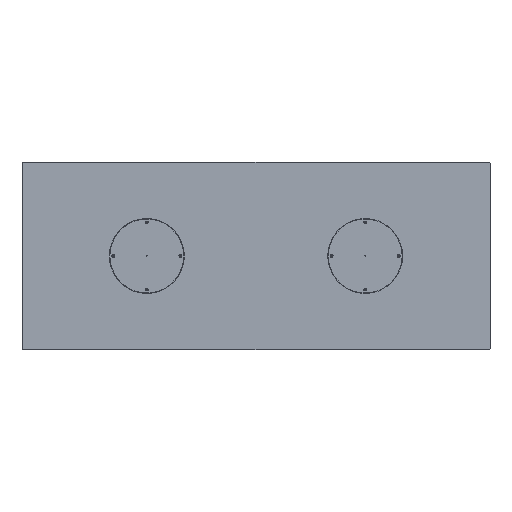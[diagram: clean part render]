
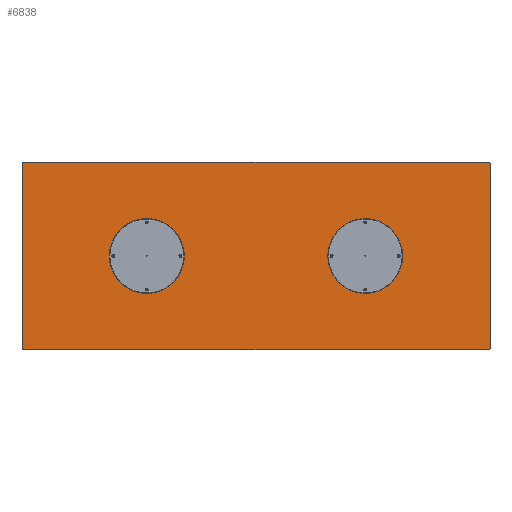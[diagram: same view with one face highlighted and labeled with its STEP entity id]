
A CAD part, front view. The second image highlights one B-rep face of the part: STEP entity #6838.
In plain terms, the highlighted planar face has unit normal (0, -1, 0).
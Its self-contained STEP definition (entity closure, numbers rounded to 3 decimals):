
#148 = FACE_OUTER_BOUND ( 'NONE', #11489, .T. ) ;
#529 = DIRECTION ( 'NONE',  ( 0., 0., 1. ) ) ;
#544 = CARTESIAN_POINT ( 'NONE',  ( -1495., 0., -600. ) ) ;
#670 = CARTESIAN_POINT ( 'NONE',  ( 1495., 0., 595. ) ) ;
#800 = CARTESIAN_POINT ( 'NONE',  ( 1495., 0., -600. ) ) ;
#862 = CARTESIAN_POINT ( 'NONE',  ( -1500., 0., 595. ) ) ;
#973 = CARTESIAN_POINT ( 'NONE',  ( -1495., 0., 600. ) ) ;
#1077 = ORIENTED_EDGE ( 'NONE', *, *, #10529, .F. ) ;
#1283 = DIRECTION ( 'NONE',  ( 0., 0., 1. ) ) ;
#1466 = EDGE_CURVE ( 'NONE', #4580, #11518, #3992, .T. ) ;
#1703 = VERTEX_POINT ( 'NONE', #973 ) ;
#1739 = VERTEX_POINT ( 'NONE', #544 ) ;
#1893 = ORIENTED_EDGE ( 'NONE', *, *, #8544, .F. ) ;
#2830 = VECTOR ( 'NONE', #3323, 1000. ) ;
#3110 = EDGE_CURVE ( 'NONE', #4865, #12745, #6759, .T. ) ;
#3323 = DIRECTION ( 'NONE',  ( -1., 0., 0. ) ) ;
#3394 = CARTESIAN_POINT ( 'NONE',  ( -1495., 0., 595. ) ) ;
#3558 = LINE ( 'NONE', #6520, #7496 ) ;
#3861 = AXIS2_PLACEMENT_3D ( 'NONE', #670, #6882, #9888 ) ;
#3931 = CARTESIAN_POINT ( 'NONE',  ( -1500., 0., -600. ) ) ;
#3992 = LINE ( 'NONE', #3931, #12468 ) ;
#4061 = CIRCLE ( 'NONE', #3861, 5. ) ;
#4153 = ORIENTED_EDGE ( 'NONE', *, *, #1466, .F. ) ;
#4447 = ORIENTED_EDGE ( 'NONE', *, *, #13063, .F. ) ;
#4528 = DIRECTION ( 'NONE',  ( 0., -1., 0. ) ) ;
#4580 = VERTEX_POINT ( 'NONE', #8228 ) ;
#4587 = CARTESIAN_POINT ( 'NONE',  ( -1495., 0., -595. ) ) ;
#4795 = DIRECTION ( 'NONE',  ( 0., -1., 0. ) ) ;
#4806 = VECTOR ( 'NONE', #9263, 1000. ) ;
#4865 = VERTEX_POINT ( 'NONE', #800 ) ;
#5116 = CARTESIAN_POINT ( 'NONE',  ( 1500., 0., 595. ) ) ;
#5330 = DIRECTION ( 'NONE',  ( 0., 1., 0. ) ) ;
#5513 = EDGE_CURVE ( 'NONE', #1703, #11518, #6796, .T. ) ;
#5624 = EDGE_CURVE ( 'NONE', #13024, #8019, #4061, .T. ) ;
#6381 = PLANE ( 'NONE',  #10631 ) ;
#6411 = LINE ( 'NONE', #8214, #4806 ) ;
#6520 = CARTESIAN_POINT ( 'NONE',  ( 1500., 0., -600. ) ) ;
#6759 = CIRCLE ( 'NONE', #11871, 5. ) ;
#6796 = CIRCLE ( 'NONE', #11449, 5. ) ;
#6838 = ADVANCED_FACE ( 'NONE', ( #148 ), #6381, .F. ) ;
#6882 = DIRECTION ( 'NONE',  ( 0., -1., 0. ) ) ;
#6903 = CARTESIAN_POINT ( 'NONE',  ( 1495., 0., -595. ) ) ;
#7487 = CIRCLE ( 'NONE', #12562, 5. ) ;
#7496 = VECTOR ( 'NONE', #10771, 1000. ) ;
#7766 = DIRECTION ( 'NONE',  ( 0., 0., 1. ) ) ;
#7880 = ORIENTED_EDGE ( 'NONE', *, *, #5624, .T. ) ;
#8019 = VERTEX_POINT ( 'NONE', #11095 ) ;
#8214 = CARTESIAN_POINT ( 'NONE',  ( -1500., 0., 600. ) ) ;
#8228 = CARTESIAN_POINT ( 'NONE',  ( -1500., 0., -595. ) ) ;
#8544 = EDGE_CURVE ( 'NONE', #4865, #1739, #10272, .T. ) ;
#8556 = CARTESIAN_POINT ( 'NONE',  ( -1500., 0., -600. ) ) ;
#8561 = DIRECTION ( 'NONE',  ( 0., 0., 1. ) ) ;
#8686 = EDGE_CURVE ( 'NONE', #4580, #1739, #7487, .T. ) ;
#8971 = DIRECTION ( 'NONE',  ( 0., -1., 0. ) ) ;
#9263 = DIRECTION ( 'NONE',  ( 1., 0., 0. ) ) ;
#9625 = ORIENTED_EDGE ( 'NONE', *, *, #8686, .T. ) ;
#9815 = CARTESIAN_POINT ( 'NONE',  ( 1500., 0., -595. ) ) ;
#9888 = DIRECTION ( 'NONE',  ( 0., 0., 1. ) ) ;
#10231 = ORIENTED_EDGE ( 'NONE', *, *, #3110, .T. ) ;
#10272 = LINE ( 'NONE', #8556, #2830 ) ;
#10358 = CARTESIAN_POINT ( 'NONE',  ( 0., 0., 0. ) ) ;
#10529 = EDGE_CURVE ( 'NONE', #13024, #12745, #3558, .T. ) ;
#10631 = AXIS2_PLACEMENT_3D ( 'NONE', #10358, #5330, #1283 ) ;
#10771 = DIRECTION ( 'NONE',  ( 0., 0., -1. ) ) ;
#11095 = CARTESIAN_POINT ( 'NONE',  ( 1495., 0., 600. ) ) ;
#11449 = AXIS2_PLACEMENT_3D ( 'NONE', #3394, #4528, #8561 ) ;
#11489 = EDGE_LOOP ( 'NONE', ( #1077, #7880, #4447, #11815, #4153, #9625, #1893, #10231 ) ) ;
#11518 = VERTEX_POINT ( 'NONE', #862 ) ;
#11815 = ORIENTED_EDGE ( 'NONE', *, *, #5513, .T. ) ;
#11871 = AXIS2_PLACEMENT_3D ( 'NONE', #6903, #8971, #12079 ) ;
#12079 = DIRECTION ( 'NONE',  ( 0., 0., 1. ) ) ;
#12468 = VECTOR ( 'NONE', #7766, 1000. ) ;
#12562 = AXIS2_PLACEMENT_3D ( 'NONE', #4587, #4795, #529 ) ;
#12745 = VERTEX_POINT ( 'NONE', #9815 ) ;
#13024 = VERTEX_POINT ( 'NONE', #5116 ) ;
#13063 = EDGE_CURVE ( 'NONE', #1703, #8019, #6411, .T. ) ;
